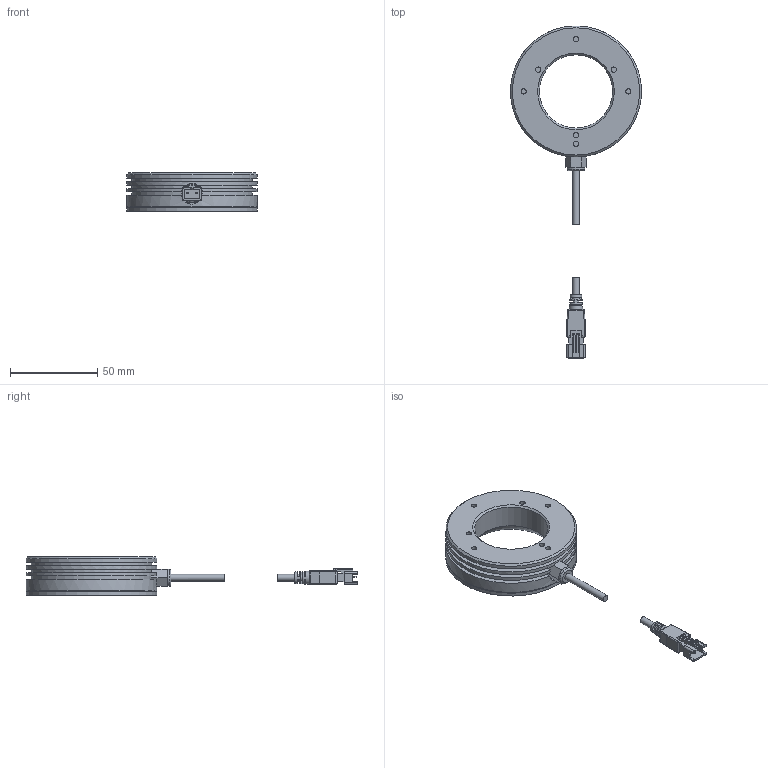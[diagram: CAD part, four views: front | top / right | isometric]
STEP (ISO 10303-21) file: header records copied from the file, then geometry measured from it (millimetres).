
FILE_DESCRIPTION(('STEP AP214'),'1');
FILE_NAME('VL-MUL75.stp','2026-04-09T04:53:56',(' '),(' '),'Spatial InterOp 3D',' ',' ');
FILE_SCHEMA(('AUTOMOTIVE_DESIGN { 1 0 10303 214 1 1 1 1 }'));
Length unit declared in the file: metre
Products named in the file (3): VL-MUL75; Component1; Component2
Assembly tree (2 placements, depth 2):
  VL-MUL75
    Component1
    Component2
Bounding box: 75 x 190.3 x 22 mm (x, y, z)
Volume: 41659.9 mm3; surface area: 29605.2 mm2
Topology: 2 solids, 13 shells, 396 faces, 1003 edges, 659 vertices
Faces by surface type: plane 260, cylinder 107, cone 14, torus 7, bspline 4, sphere 4
Full cylindrical faces by diameter (mm): 2 x10, 2.4 x5, 2.8 x5, 3 x7, 3.9 x3, 4 x2, 6 x1, 9.959 x1, 42 x1, 44 x2, 47 x1, 48 x1, 65 x1, 69 x2, 75 x4
Entity records: 17777 total; most frequent: CARTESIAN_POINT 3365, DIRECTION 1876, ORIENTED_EDGE 1792, EDGE_CURVE 896, STYLED_ITEM 802, PRESENTATION_STYLE_ASSIGNMENT 802, COLOUR_RGB 802, AXIS2_PLACEMENT_3D 634
